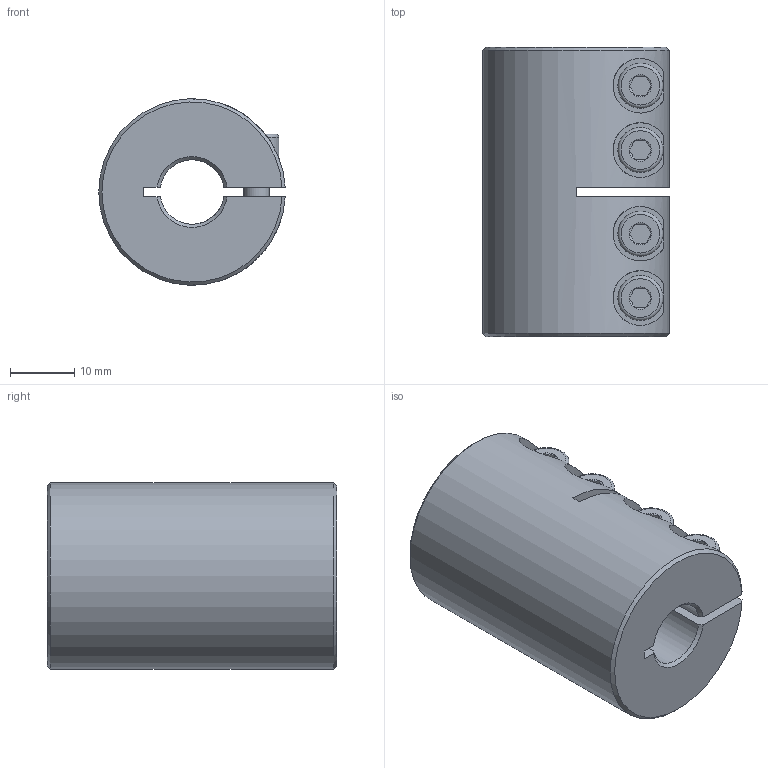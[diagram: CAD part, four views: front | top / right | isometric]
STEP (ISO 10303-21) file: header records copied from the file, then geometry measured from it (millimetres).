
FILE_DESCRIPTION( ( 'Unknown' ), '1' );
FILE_NAME( 'K:/Konstruktion/Fertigungszeichnungen/Schalenkupplung/KBST/KBST-10.stp', 'Unknown', ( 'Unknown' ), ( 'Unknown' ), 'PSStep 16.0.42', 'Unknown', ' ' );
FILE_SCHEMA( ( 'AUTOMOTIVE_DESIGN { 1 0 10303 214 1 1 1 1 }' ) );
Length unit declared in the file: millimetre
Products named in the file (3): Assem1; ISO EN DIN 4762 M4x12; KBST-10
Assembly tree (5 placements, depth 2):
  Assem1
    ISO EN DIN 4762 M4x12  x4
    KBST-10
Bounding box: 28.98 x 45 x 29 mm (x, y, z)
Volume: 24345.5 mm3; surface area: 10141.9 mm2
Topology: 5 solids, 5 shells, 140 faces, 282 edges, 172 vertices
Faces by surface type: plane 67, cone 34, cylinder 31, torus 8
Full cylindrical faces by diameter (mm): 3.242 x4, 3.5 x4, 4 x8, 4.5 x4, 7 x4
Entity records: 2776 total; most frequent: CARTESIAN_POINT 773, DIRECTION 298, ORIENTED_EDGE 258, EDGE_CURVE 129, AXIS2_PLACEMENT_3D 124, EDGE_LOOP 104, VERTEX_POINT 91, FACE_OUTER_BOUND 79
